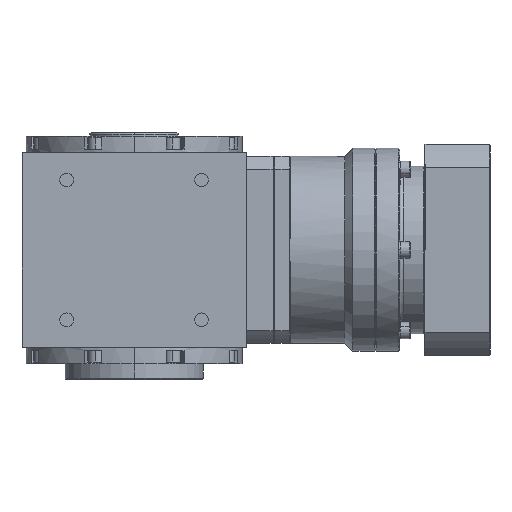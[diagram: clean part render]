
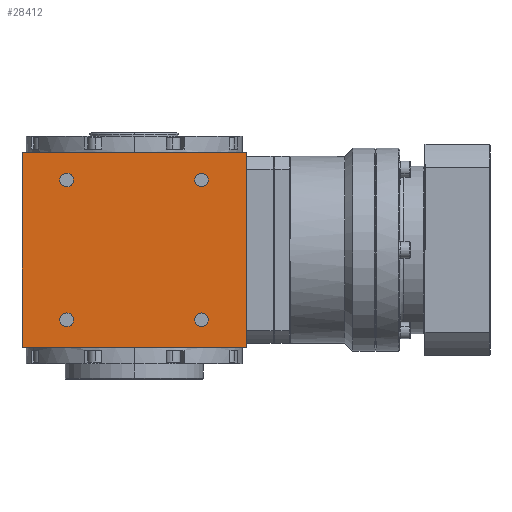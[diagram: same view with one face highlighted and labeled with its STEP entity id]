
A CAD part, left-side view. The second image highlights one B-rep face of the part: STEP entity #28412.
In plain terms, the highlighted planar face has unit normal (-1, 0, 0).
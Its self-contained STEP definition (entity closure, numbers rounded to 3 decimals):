
#398 = EDGE_CURVE ( 'NONE', #6131, #4568, #39809, .T. ) ;
#509 = AXIS2_PLACEMENT_3D ( 'NONE', #27978, #24497, #34128 ) ;
#821 = EDGE_CURVE ( 'NONE', #22516, #11058, #31972, .T. ) ;
#1842 = FACE_BOUND ( 'NONE', #13029, .T. ) ;
#2038 = FACE_BOUND ( 'NONE', #17521, .T. ) ;
#2239 = FACE_BOUND ( 'NONE', #4161, .T. ) ;
#2264 = DIRECTION ( 'NONE',  ( 0., 0., 1. ) ) ;
#2513 = ORIENTED_EDGE ( 'NONE', *, *, #10897, .T. ) ;
#2612 = CARTESIAN_POINT ( 'NONE',  ( -69., -41.5, 43. ) ) ;
#3780 = DIRECTION ( 'NONE',  ( 1., 0., 0. ) ) ;
#4145 = VERTEX_POINT ( 'NONE', #29452 ) ;
#4161 = EDGE_LOOP ( 'NONE', ( #11473, #16158 ) ) ;
#4323 = DIRECTION ( 'NONE',  ( 0., 0., 1. ) ) ;
#4568 = VERTEX_POINT ( 'NONE', #19001 ) ;
#4723 = CARTESIAN_POINT ( 'NONE',  ( -69., -41.5, -43. ) ) ;
#6059 = CARTESIAN_POINT ( 'NONE',  ( -69., -41.5, 47.2 ) ) ;
#6131 = VERTEX_POINT ( 'NONE', #17496 ) ;
#6417 = AXIS2_PLACEMENT_3D ( 'NONE', #23822, #39602, #32639 ) ;
#6520 = CARTESIAN_POINT ( 'NONE',  ( -69., 69., -60. ) ) ;
#6697 = DIRECTION ( 'NONE',  ( 0., 0., 1. ) ) ;
#6782 = VERTEX_POINT ( 'NONE', #16860 ) ;
#6860 = CARTESIAN_POINT ( 'NONE',  ( -69., -41.5, 43. ) ) ;
#6989 = CIRCLE ( 'NONE', #27935, 4.2 ) ;
#7997 = LINE ( 'NONE', #20502, #20112 ) ;
#8195 = VERTEX_POINT ( 'NONE', #36743 ) ;
#8287 = DIRECTION ( 'NONE',  ( 0., 0., 1. ) ) ;
#9253 = ORIENTED_EDGE ( 'NONE', *, *, #13681, .T. ) ;
#9515 = AXIS2_PLACEMENT_3D ( 'NONE', #6860, #3780, #17090 ) ;
#9547 = DIRECTION ( 'NONE',  ( 0., 0., 1. ) ) ;
#10897 = EDGE_CURVE ( 'NONE', #17640, #34114, #6989, .T. ) ;
#11006 = CIRCLE ( 'NONE', #19536, 4.2 ) ;
#11058 = VERTEX_POINT ( 'NONE', #12334 ) ;
#11312 = ORIENTED_EDGE ( 'NONE', *, *, #27154, .T. ) ;
#11337 = EDGE_CURVE ( 'NONE', #4568, #34772, #7997, .T. ) ;
#11473 = ORIENTED_EDGE ( 'NONE', *, *, #821, .T. ) ;
#12334 = CARTESIAN_POINT ( 'NONE',  ( -69., -41.5, 38.8 ) ) ;
#12616 = DIRECTION ( 'NONE',  ( 1., 0., 0. ) ) ;
#12668 = DIRECTION ( 'NONE',  ( 0., -1., 0. ) ) ;
#13029 = EDGE_LOOP ( 'NONE', ( #18800, #20937 ) ) ;
#13681 = EDGE_CURVE ( 'NONE', #8195, #32214, #36900, .T. ) ;
#14527 = CARTESIAN_POINT ( 'NONE',  ( -69., 69., -60. ) ) ;
#16158 = ORIENTED_EDGE ( 'NONE', *, *, #31140, .T. ) ;
#16194 = ORIENTED_EDGE ( 'NONE', *, *, #398, .T. ) ;
#16860 = CARTESIAN_POINT ( 'NONE',  ( -69., 41.5, 47.2 ) ) ;
#16863 = EDGE_LOOP ( 'NONE', ( #37954, #16194, #26059, #34878 ) ) ;
#17085 = DIRECTION ( 'NONE',  ( 0., -1., 0. ) ) ;
#17090 = DIRECTION ( 'NONE',  ( 0., 0., 1. ) ) ;
#17483 = DIRECTION ( 'NONE',  ( 1., 0., 0. ) ) ;
#17496 = CARTESIAN_POINT ( 'NONE',  ( -69., 69., -60. ) ) ;
#17521 = EDGE_LOOP ( 'NONE', ( #2513, #11312 ) ) ;
#17640 = VERTEX_POINT ( 'NONE', #32726 ) ;
#17811 = DIRECTION ( 'NONE',  ( -1., 0., 0. ) ) ;
#18633 = CARTESIAN_POINT ( 'NONE',  ( -69., 0., -60. ) ) ;
#18800 = ORIENTED_EDGE ( 'NONE', *, *, #31291, .T. ) ;
#19001 = CARTESIAN_POINT ( 'NONE',  ( -69., -69., -60. ) ) ;
#19206 = AXIS2_PLACEMENT_3D ( 'NONE', #14527, #17811, #26998 ) ;
#19536 = AXIS2_PLACEMENT_3D ( 'NONE', #31454, #38419, #25098 ) ;
#20112 = VECTOR ( 'NONE', #2264, 1000. ) ;
#20502 = CARTESIAN_POINT ( 'NONE',  ( -69., -69., -60. ) ) ;
#20937 = ORIENTED_EDGE ( 'NONE', *, *, #27103, .T. ) ;
#20991 = CARTESIAN_POINT ( 'NONE',  ( -69., 0., 60. ) ) ;
#21181 = LINE ( 'NONE', #20991, #37115 ) ;
#22100 = LINE ( 'NONE', #6520, #31270 ) ;
#22165 = VECTOR ( 'NONE', #12668, 1000. ) ;
#22516 = VERTEX_POINT ( 'NONE', #6059 ) ;
#23141 = AXIS2_PLACEMENT_3D ( 'NONE', #4723, #29105, #4323 ) ;
#23249 = AXIS2_PLACEMENT_3D ( 'NONE', #30185, #39434, #8287 ) ;
#23637 = CARTESIAN_POINT ( 'NONE',  ( -69., 41.5, -43. ) ) ;
#23822 = CARTESIAN_POINT ( 'NONE',  ( -69., -41.5, -43. ) ) ;
#24175 = PLANE ( 'NONE',  #19206 ) ;
#24497 = DIRECTION ( 'NONE',  ( 1., 0., 0. ) ) ;
#25098 = DIRECTION ( 'NONE',  ( 0., 0., 1. ) ) ;
#26059 = ORIENTED_EDGE ( 'NONE', *, *, #11337, .T. ) ;
#26451 = CARTESIAN_POINT ( 'NONE',  ( -69., -69., 60. ) ) ;
#26682 = CIRCLE ( 'NONE', #509, 4.2 ) ;
#26998 = DIRECTION ( 'NONE',  ( 0., 0., 1. ) ) ;
#27103 = EDGE_CURVE ( 'NONE', #4145, #6782, #26682, .T. ) ;
#27154 = EDGE_CURVE ( 'NONE', #34114, #17640, #11006, .T. ) ;
#27292 = EDGE_LOOP ( 'NONE', ( #29778, #9253 ) ) ;
#27935 = AXIS2_PLACEMENT_3D ( 'NONE', #23637, #17483, #39406 ) ;
#27978 = CARTESIAN_POINT ( 'NONE',  ( -69., 41.5, 43. ) ) ;
#28412 = ADVANCED_FACE ( 'NONE', ( #29889, #1842, #30281, #2038, #2239 ), #24175, .T. ) ;
#29105 = DIRECTION ( 'NONE',  ( 1., 0., 0. ) ) ;
#29452 = CARTESIAN_POINT ( 'NONE',  ( -69., 41.5, 38.8 ) ) ;
#29778 = ORIENTED_EDGE ( 'NONE', *, *, #37038, .T. ) ;
#29889 = FACE_OUTER_BOUND ( 'NONE', #16863, .T. ) ;
#30185 = CARTESIAN_POINT ( 'NONE',  ( -69., 41.5, 43. ) ) ;
#30281 = FACE_BOUND ( 'NONE', #27292, .T. ) ;
#31140 = EDGE_CURVE ( 'NONE', #11058, #22516, #38300, .T. ) ;
#31270 = VECTOR ( 'NONE', #6697, 1000. ) ;
#31291 = EDGE_CURVE ( 'NONE', #6782, #4145, #33715, .T. ) ;
#31454 = CARTESIAN_POINT ( 'NONE',  ( -69., 41.5, -43. ) ) ;
#31929 = CARTESIAN_POINT ( 'NONE',  ( -69., 69., 60. ) ) ;
#31972 = CIRCLE ( 'NONE', #37230, 4.2 ) ;
#32214 = VERTEX_POINT ( 'NONE', #38424 ) ;
#32639 = DIRECTION ( 'NONE',  ( 0., 0., 1. ) ) ;
#32726 = CARTESIAN_POINT ( 'NONE',  ( -69., 41.5, -38.8 ) ) ;
#33242 = CIRCLE ( 'NONE', #6417, 4.2 ) ;
#33715 = CIRCLE ( 'NONE', #23249, 4.2 ) ;
#34114 = VERTEX_POINT ( 'NONE', #35028 ) ;
#34128 = DIRECTION ( 'NONE',  ( 0., 0., 1. ) ) ;
#34494 = EDGE_CURVE ( 'NONE', #38793, #34772, #21181, .T. ) ;
#34772 = VERTEX_POINT ( 'NONE', #26451 ) ;
#34878 = ORIENTED_EDGE ( 'NONE', *, *, #34494, .F. ) ;
#35028 = CARTESIAN_POINT ( 'NONE',  ( -69., 41.5, -47.2 ) ) ;
#35543 = EDGE_CURVE ( 'NONE', #6131, #38793, #22100, .T. ) ;
#36743 = CARTESIAN_POINT ( 'NONE',  ( -69., -41.5, -47.2 ) ) ;
#36900 = CIRCLE ( 'NONE', #23141, 4.2 ) ;
#37038 = EDGE_CURVE ( 'NONE', #32214, #8195, #33242, .T. ) ;
#37115 = VECTOR ( 'NONE', #17085, 1000. ) ;
#37230 = AXIS2_PLACEMENT_3D ( 'NONE', #2612, #12616, #9547 ) ;
#37954 = ORIENTED_EDGE ( 'NONE', *, *, #35543, .F. ) ;
#38300 = CIRCLE ( 'NONE', #9515, 4.2 ) ;
#38419 = DIRECTION ( 'NONE',  ( 1., 0., 0. ) ) ;
#38424 = CARTESIAN_POINT ( 'NONE',  ( -69., -41.5, -38.8 ) ) ;
#38793 = VERTEX_POINT ( 'NONE', #31929 ) ;
#39406 = DIRECTION ( 'NONE',  ( 0., 0., 1. ) ) ;
#39434 = DIRECTION ( 'NONE',  ( 1., 0., 0. ) ) ;
#39602 = DIRECTION ( 'NONE',  ( 1., 0., 0. ) ) ;
#39809 = LINE ( 'NONE', #18633, #22165 ) ;
